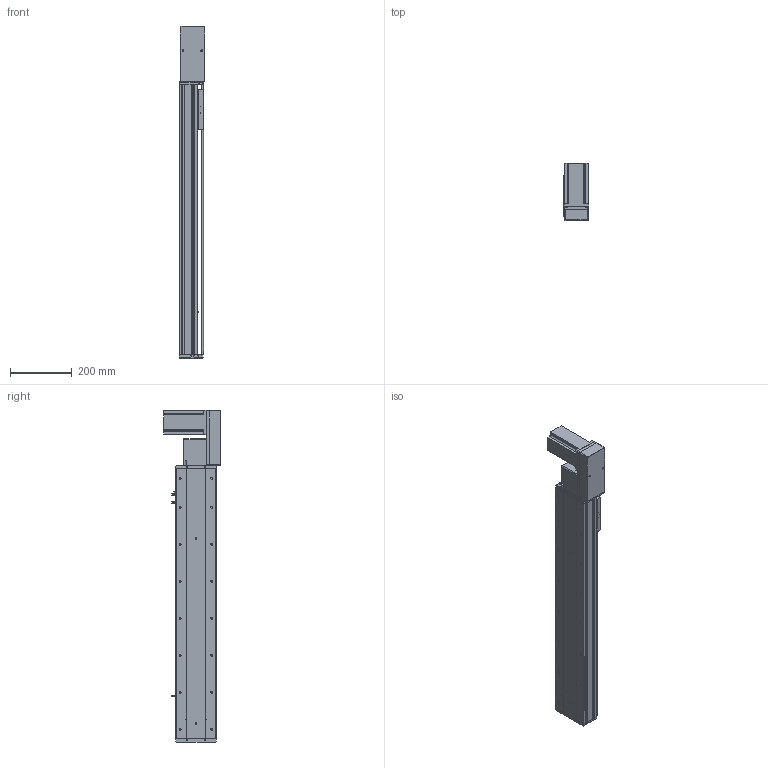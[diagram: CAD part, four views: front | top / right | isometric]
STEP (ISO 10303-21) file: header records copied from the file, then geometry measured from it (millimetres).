
FILE_DESCRIPTION (( 'STEP AP214' ), '1' );
FILE_NAME ('KSD130B-S650-MLB-CM .STEP', '2019-11-14T02:06:09', ( '微软用户' ), ( '微软中国' ), 'SwSTEP 2.0', 'SolidWorks 2014', '' );
FILE_SCHEMA (( 'AUTOMOTIVE_DESIGN' ));
Length unit declared in the file: millimetre
Products named in the file (12): 台达ECMA－C20807AS伺服电机; 130宽模组保护罩上下左右折-同步带; 130宽模组马达安装板连板左右折同步带; 覜茼え100遵圉猾敕; U倰嫖萇EEㄜSX672; 130宽盖板半封闭同步带-650行程; 130宽马达安装板同步带左-改; 130宽马达安装板同步带半封闭; 130宽同步带安装座半封闭; 130宽端盖同步带半封闭; 130宽底板半封闭同步带-650行程; KSD130B-S650-MLB-CM 
Assembly tree (13 placements, depth 2):
  KSD130B-S650-MLB-CM 
    130宽底板半封闭同步带-650行程
    130宽端盖同步带半封闭
    130宽同步带安装座半封闭
    130宽马达安装板同步带半封闭
    130宽马达安装板同步带左-改
    130宽盖板半封闭同步带-650行程
    U倰嫖萇EEㄜSX672  x3
    覜茼え100遵圉猾敕
    130宽模组马达安装板连板左右折同步带
    130宽模组保护罩上下左右折-同步带
    台达ECMA－C20807AS伺服电机
Bounding box: 82.5 x 184.8 x 1077 mm (x, y, z)
Volume: 4044063 mm3; surface area: 1071972 mm2
Topology: 14 solids, 14 shells, 1449 faces, 4101 edges, 2631 vertices
Faces by surface type: cylinder 684, plane 614, cone 151
Entity records: 46847 total; most frequent: CARTESIAN_POINT 8516, DIRECTION 7163, ORIENTED_EDGE 6886, EDGE_CURVE 3443, AXIS2_PLACEMENT_3D 2598, VERTEX_POINT 2255, VECTOR 1967, LINE 1967
